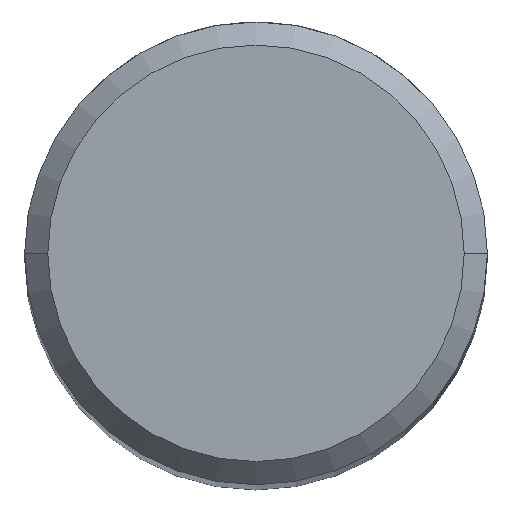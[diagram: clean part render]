
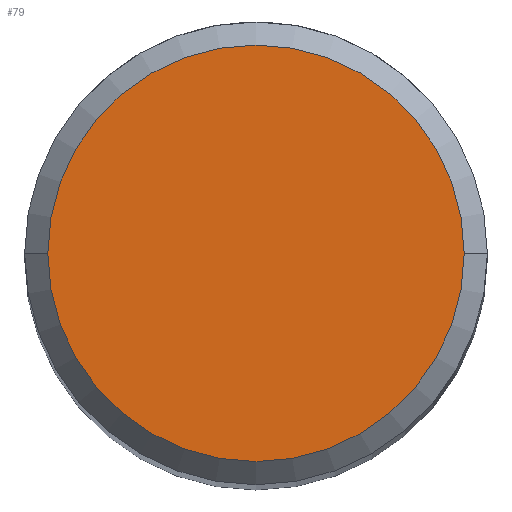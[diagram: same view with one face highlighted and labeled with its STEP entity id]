
A CAD part, top view. The second image highlights one B-rep face of the part: STEP entity #79.
In plain terms, the highlighted planar face has unit normal (0, 0, 1).
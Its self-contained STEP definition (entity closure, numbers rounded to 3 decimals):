
#4 = VERTEX_POINT ( 'NONE', #275 ) ;
#24 = AXIS2_PLACEMENT_3D ( 'NONE', #157, #87, #298 ) ;
#29 = FACE_OUTER_BOUND ( 'NONE', #108, .T. ) ;
#30 = AXIS2_PLACEMENT_3D ( 'NONE', #176, #198, #313 ) ;
#32 = CARTESIAN_POINT ( 'NONE',  ( 0., 0., 26.5 ) ) ;
#51 = PLANE ( 'NONE',  #24 ) ;
#72 = VERTEX_POINT ( 'NONE', #134 ) ;
#79 = ADVANCED_FACE ( 'NONE', ( #29 ), #51, .T. ) ;
#87 = DIRECTION ( 'NONE',  ( 0., 0., 1. ) ) ;
#95 = EDGE_CURVE ( 'NONE', #4, #72, #268, .T. ) ;
#108 = EDGE_LOOP ( 'NONE', ( #276, #204 ) ) ;
#134 = CARTESIAN_POINT ( 'NONE',  ( -1.8, 0., 26.5 ) ) ;
#135 = DIRECTION ( 'NONE',  ( 0., 0., 1. ) ) ;
#155 = DIRECTION ( 'NONE',  ( 1., 0., 0. ) ) ;
#157 = CARTESIAN_POINT ( 'NONE',  ( 0., 0., 26.5 ) ) ;
#169 = CIRCLE ( 'NONE', #30, 1.8 ) ;
#176 = CARTESIAN_POINT ( 'NONE',  ( 0., 0., 26.5 ) ) ;
#198 = DIRECTION ( 'NONE',  ( 0., 0., 1. ) ) ;
#204 = ORIENTED_EDGE ( 'NONE', *, *, #95, .T. ) ;
#239 = AXIS2_PLACEMENT_3D ( 'NONE', #32, #135, #155 ) ;
#268 = CIRCLE ( 'NONE', #239, 1.8 ) ;
#275 = CARTESIAN_POINT ( 'NONE',  ( 1.8, 0., 26.5 ) ) ;
#276 = ORIENTED_EDGE ( 'NONE', *, *, #308, .T. ) ;
#298 = DIRECTION ( 'NONE',  ( 1., 0., 0. ) ) ;
#308 = EDGE_CURVE ( 'NONE', #72, #4, #169, .T. ) ;
#313 = DIRECTION ( 'NONE',  ( 1., 0., 0. ) ) ;
